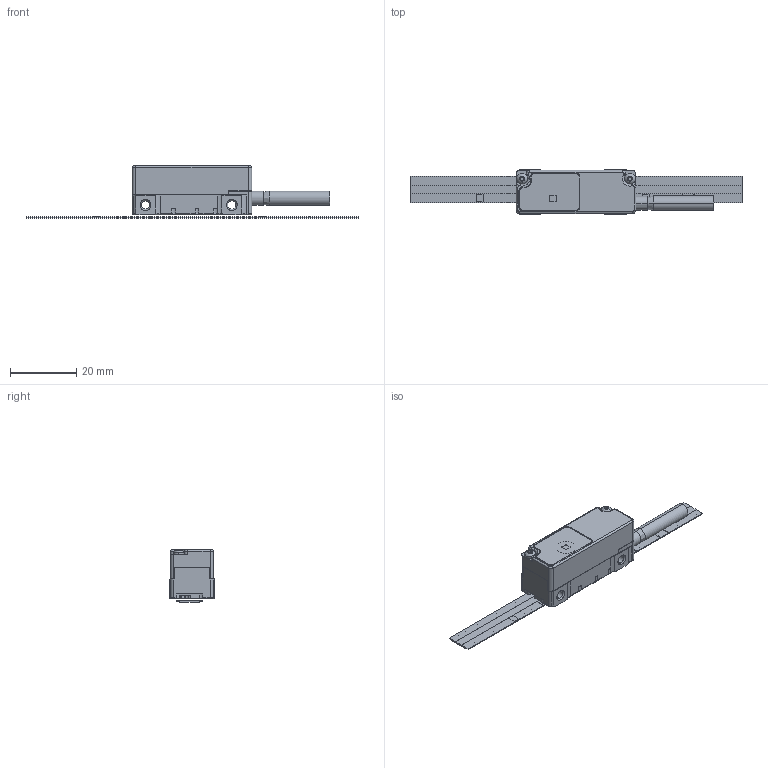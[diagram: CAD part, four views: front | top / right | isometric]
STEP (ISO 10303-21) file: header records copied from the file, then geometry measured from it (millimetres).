
FILE_DESCRIPTION (( 'STEP AP214' ), '1' );
FILE_NAME ('MS15 晤鎢ん蚾饜芞.STEP', '2024-08-22T03:18:23', ( 'dayu' ), ( '' ), 'SwSTEP 2.0', 'SolidWorks 2020', '' );
FILE_SCHEMA (( 'AUTOMOTIVE_DESIGN' ));
Length unit declared in the file: millimetre
Products named in the file (3): MS15 晤鎢ん蚾饜芞; MS15炵蹈黍杅芛; SH04-Lxxx-MS 嫖掑喜
Assembly tree (2 placements, depth 2):
  MS15 晤鎢ん蚾饜芞
    MS15炵蹈黍杅芛
    SH04-Lxxx-MS 嫖掑喜
Bounding box: 100 x 13.5 x 15.8 mm (x, y, z)
Volume: 3926.3 mm3; surface area: 7716.2 mm2
Topology: 14 solids, 14 shells, 952 faces, 2601 edges, 1690 vertices
Faces by surface type: plane 585, cylinder 300, cone 39, torus 20, bspline 5, sphere 3
Entity records: 41376 total; most frequent: CARTESIAN_POINT 6936, ORIENTED_EDGE 5170, DIRECTION 4943, EDGE_CURVE 2585, VECTOR 1773, LINE 1773, VERTEX_POINT 1684, AXIS2_PLACEMENT_3D 1585
